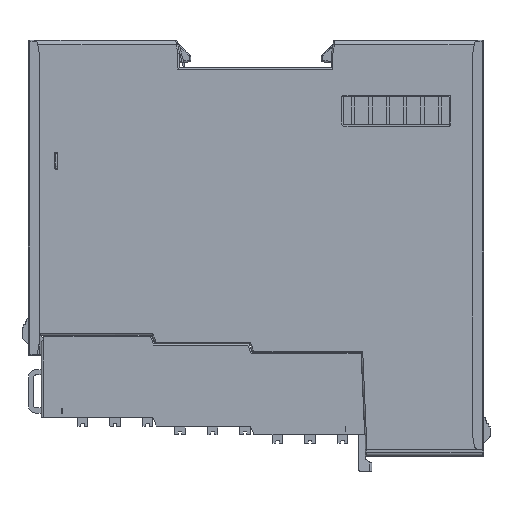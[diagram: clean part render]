
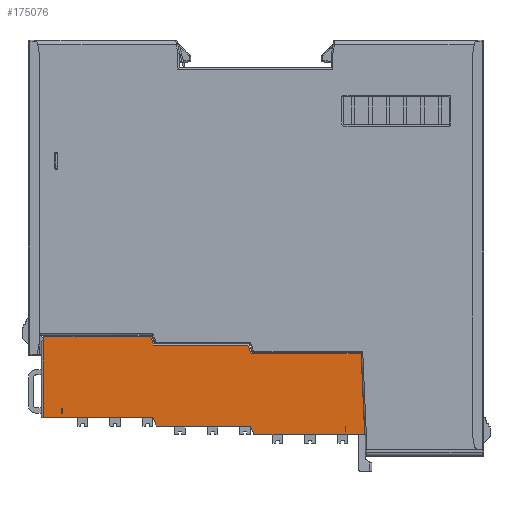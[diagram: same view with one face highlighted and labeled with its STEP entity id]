
A CAD part, front view. The second image highlights one B-rep face of the part: STEP entity #175076.
In plain terms, the highlighted planar face has unit normal (0, -1, 0) as drawn and (0, 1, 0) by its records, which use the part's own axes.
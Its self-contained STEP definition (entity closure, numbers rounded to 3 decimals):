
#133463=DIRECTION('',(0.,0.,1.));
#133464=VECTOR('',#133463,21.712);
#133465=CARTESIAN_POINT('',(-2.,6.15,-11.72));
#133466=LINE('',#133465,#133464);
#138722=DIRECTION('',(0.,0.,1.));
#138723=VECTOR('',#138722,25.32);
#138724=CARTESIAN_POINT('',(-4.,6.15,10.78));
#138725=LINE('',#138724,#138723);
#143155=DIRECTION('',(0.707,0.,0.707));
#143156=VECTOR('',#143155,0.212);
#143157=CARTESIAN_POINT('',(-22.05,6.15,35.95));
#143158=LINE('',#143157,#143156);
#143159=DIRECTION('',(-0.93,0.,
0.367));
#143160=VECTOR('',#143159,2.15);
#143161=CARTESIAN_POINT('',(-20.7,6.15,10.604));
#143162=LINE('',#143161,#143160);
#143163=DIRECTION('',(-0.93,0.,
0.367));
#143164=VECTOR('',#143163,2.15);
#143165=CARTESIAN_POINT('',(-18.7,6.15,-11.896));
#143166=LINE('',#143165,#143164);
#143167=DIRECTION('',(-0.999,0.,0.044));
#143168=VECTOR('',#143167,18.718);
#143169=CARTESIAN_POINT('',(0.,6.15,-38.072));
#143170=LINE('',#143169,#143168);
#143171=DIRECTION('',(0.,0.,-1.));
#143172=VECTOR('',#143171,25.565);
#143173=CARTESIAN_POINT('',(0.,6.15,-12.508));
#143174=LINE('',#143173,#143172);
#143175=DIRECTION('',(0.93,0.,-0.367));
#143176=VECTOR('',#143175,2.15);
#143177=CARTESIAN_POINT('',(-2.,6.15,-11.72));
#143178=LINE('',#143177,#143176);
#143179=DIRECTION('',(0.93,0.,-0.367));
#143180=VECTOR('',#143179,2.15);
#143181=CARTESIAN_POINT('',(-4.,6.15,10.78));
#143182=LINE('',#143181,#143180);
#143183=DIRECTION('',(1.,0.,0.));
#143184=VECTOR('',#143183,1.2);
#143185=CARTESIAN_POINT('',(-2.,6.15,-33.72));
#143186=LINE('',#143185,#143184);
#143187=DIRECTION('',(0.,0.,-1.));
#143188=VECTOR('',#143187,0.107);
#143189=CARTESIAN_POINT('',(-2.,6.15,-33.613));
#143190=LINE('',#143189,#143188);
#143202=DIRECTION('',(1.,0.,0.));
#143203=VECTOR('',#143202,17.9);
#143204=CARTESIAN_POINT('',(-21.9,6.15,36.1));
#143205=LINE('',#143204,#143203);
#143512=DIRECTION('',(-1.,0.,0.));
#143513=VECTOR('',#143512,0.65);
#143514=CARTESIAN_POINT('',(-22.05,6.15,35.95));
#143515=LINE('',#143514,#143513);
#143632=DIRECTION('',(0.,0.,-1.));
#143633=VECTOR('',#143632,24.558);
#143634=CARTESIAN_POINT('',(-22.7,6.15,35.95));
#143635=LINE('',#143634,#143633);
#143656=DIRECTION('',(0.,0.,-1.));
#143657=VECTOR('',#143656,21.712);
#143658=CARTESIAN_POINT('',(-20.7,6.15,10.604));
#143659=LINE('',#143658,#143657);
#143686=DIRECTION('',(0.,0.,1.));
#143687=VECTOR('',#143686,25.36);
#143688=CARTESIAN_POINT('',(-18.7,6.15,-37.256));
#143689=LINE('',#143688,#143687);
#143710=DIRECTION('',(-1.,0.,0.));
#143711=VECTOR('',#143710,1.2);
#143712=CARTESIAN_POINT('',(-4.8,6.15,31.7));
#143713=LINE('',#143712,#143711);
#143722=DIRECTION('',(0.,0.,1.));
#143723=VECTOR('',#143722,0.08);
#143724=CARTESIAN_POINT('',(-6.,6.15,31.7));
#143725=LINE('',#143724,#143723);
#143874=DIRECTION('',(0.,0.,1.));
#143875=VECTOR('',#143874,0.08);
#143876=CARTESIAN_POINT('',(-4.8,6.15,31.7));
#143877=LINE('',#143876,#143875);
#143906=DIRECTION('',(-1.,0.,0.));
#143907=VECTOR('',#143906,1.2);
#143908=CARTESIAN_POINT('',(-4.8,6.15,31.78));
#143909=LINE('',#143908,#143907);
#146360=DIRECTION('',(0.,0.,1.));
#146361=VECTOR('',#146360,0.107);
#146362=CARTESIAN_POINT('',(-0.8,6.15,-33.72));
#146363=LINE('',#146362,#146361);
#146368=DIRECTION('',(-1.,0.,0.));
#146369=VECTOR('',#146368,1.2);
#146370=CARTESIAN_POINT('',(-0.8,6.15,-33.613));
#146371=LINE('',#146370,#146369);
#156874=CARTESIAN_POINT('',(0.,6.15,-12.508));
#156875=VERTEX_POINT('',#156874);
#156876=CARTESIAN_POINT('',(0.,6.15,-38.072));
#156877=VERTEX_POINT('',#156876);
#157000=CARTESIAN_POINT('',(-2.,6.15,-33.613));
#157001=VERTEX_POINT('',#157000);
#157002=CARTESIAN_POINT('',(-2.,6.15,-33.72));
#157003=VERTEX_POINT('',#157002);
#157024=CARTESIAN_POINT('',(-0.8,6.15,-33.72));
#157025=VERTEX_POINT('',#157024);
#157026=CARTESIAN_POINT('',(-21.9,6.15,36.1));
#157027=CARTESIAN_POINT('',(-4.,6.15,36.1));
#157028=VERTEX_POINT('',#157026);
#157029=VERTEX_POINT('',#157027);
#157030=CARTESIAN_POINT('',(-22.05,6.15,35.95));
#157031=VERTEX_POINT('',#157030);
#157032=CARTESIAN_POINT('',(-22.7,6.15,35.95));
#157033=VERTEX_POINT('',#157032);
#157034=CARTESIAN_POINT('',(-22.7,6.15,11.392));
#157035=VERTEX_POINT('',#157034);
#157036=CARTESIAN_POINT('',(-20.7,6.15,10.604));
#157037=VERTEX_POINT('',#157036);
#157038=CARTESIAN_POINT('',(-20.7,6.15,-11.108));
#157039=VERTEX_POINT('',#157038);
#157040=CARTESIAN_POINT('',(-18.7,6.15,-11.896));
#157041=VERTEX_POINT('',#157040);
#157042=CARTESIAN_POINT('',(-18.7,6.15,-37.256));
#157043=VERTEX_POINT('',#157042);
#157044=CARTESIAN_POINT('',(-2.,6.15,-11.72));
#157045=VERTEX_POINT('',#157044);
#157046=CARTESIAN_POINT('',(-2.,6.15,9.992));
#157047=VERTEX_POINT('',#157046);
#157048=CARTESIAN_POINT('',(-4.,6.15,10.78));
#157049=VERTEX_POINT('',#157048);
#157050=CARTESIAN_POINT('',(-4.8,6.15,31.7));
#157051=CARTESIAN_POINT('',(-6.,6.15,31.7));
#157052=VERTEX_POINT('',#157050);
#157053=VERTEX_POINT('',#157051);
#157054=CARTESIAN_POINT('',(-6.,6.15,31.78));
#157055=VERTEX_POINT('',#157054);
#157056=CARTESIAN_POINT('',(-4.8,6.15,31.78));
#157057=VERTEX_POINT('',#157056);
#157058=CARTESIAN_POINT('',(-0.8,6.15,-33.613));
#157059=VERTEX_POINT('',#157058);
#175027=CARTESIAN_POINT('',(-11.35,6.15,-0.986));
#175028=DIRECTION('',(0.,1.,0.));
#175029=DIRECTION('',(1.,0.,0.));
#175030=AXIS2_PLACEMENT_3D('',#175027,#175028,#175029);
#175031=PLANE('',#175030);
#175033=ORIENTED_EDGE('',*,*,#175032,.F.);
#175035=ORIENTED_EDGE('',*,*,#175034,.F.);
#175037=ORIENTED_EDGE('',*,*,#175036,.T.);
#175039=ORIENTED_EDGE('',*,*,#175038,.T.);
#175041=ORIENTED_EDGE('',*,*,#175040,.F.);
#175043=ORIENTED_EDGE('',*,*,#175042,.T.);
#175044=ORIENTED_EDGE('',*,*,#175017,.F.);
#175046=ORIENTED_EDGE('',*,*,#175045,.F.);
#175048=ORIENTED_EDGE('',*,*,#175047,.F.);
#175049=ORIENTED_EDGE('',*,*,#160524,.F.);
#175050=ORIENTED_EDGE('',*,*,#161214,.F.);
#175051=ORIENTED_EDGE('',*,*,#161250,.T.);
#175052=ORIENTED_EDGE('',*,*,#168648,.F.);
#175053=ORIENTED_EDGE('',*,*,#168665,.T.);
#175054=EDGE_LOOP('',(#175033,#175035,#175037,#175039,#175041,#175043,#175044,
#175046,#175048,#175049,#175050,#175051,#175052,#175053));
#175055=FACE_OUTER_BOUND('',#175054,.F.);
#175057=ORIENTED_EDGE('',*,*,#175056,.T.);
#175059=ORIENTED_EDGE('',*,*,#175058,.T.);
#175061=ORIENTED_EDGE('',*,*,#175060,.F.);
#175063=ORIENTED_EDGE('',*,*,#175062,.F.);
#175064=EDGE_LOOP('',(#175057,#175059,#175061,#175063));
#175065=FACE_BOUND('',#175064,.F.);
#175067=ORIENTED_EDGE('',*,*,#175066,.F.);
#175069=ORIENTED_EDGE('',*,*,#175068,.F.);
#175071=ORIENTED_EDGE('',*,*,#175070,.F.);
#175073=ORIENTED_EDGE('',*,*,#175072,.F.);
#175074=EDGE_LOOP('',(#175067,#175069,#175071,#175073));
#175075=FACE_BOUND('',#175074,.F.);
#175076=ADVANCED_FACE('',(#175055,#175065,#175075),#175031,.T.);
#160524=EDGE_CURVE('',#156875,#156877,#143174,.T.);
#161214=EDGE_CURVE('',#157045,#156875,#143178,.T.);
#161250=EDGE_CURVE('',#157045,#157047,#133466,.T.);
#168648=EDGE_CURVE('',#157049,#157047,#143182,.T.);
#168665=EDGE_CURVE('',#157049,#157029,#138725,.T.);
#175017=EDGE_CURVE('',#157041,#157039,#143166,.T.);
#175032=EDGE_CURVE('',#157028,#157029,#143205,.T.);
#175034=EDGE_CURVE('',#157031,#157028,#143158,.T.);
#175036=EDGE_CURVE('',#157031,#157033,#143515,.T.);
#175038=EDGE_CURVE('',#157033,#157035,#143635,.T.);
#175040=EDGE_CURVE('',#157037,#157035,#143162,.T.);
#175042=EDGE_CURVE('',#157037,#157039,#143659,.T.);
#175045=EDGE_CURVE('',#157043,#157041,#143689,.T.);
#175047=EDGE_CURVE('',#156877,#157043,#143170,.T.);
#175056=EDGE_CURVE('',#157052,#157053,#143713,.T.);
#175058=EDGE_CURVE('',#157053,#157055,#143725,.T.);
#175060=EDGE_CURVE('',#157057,#157055,#143909,.T.);
#175062=EDGE_CURVE('',#157052,#157057,#143877,.T.);
#175066=EDGE_CURVE('',#157003,#157025,#143186,.T.);
#175068=EDGE_CURVE('',#157001,#157003,#143190,.T.);
#175070=EDGE_CURVE('',#157059,#157001,#146371,.T.);
#175072=EDGE_CURVE('',#157025,#157059,#146363,.T.);
